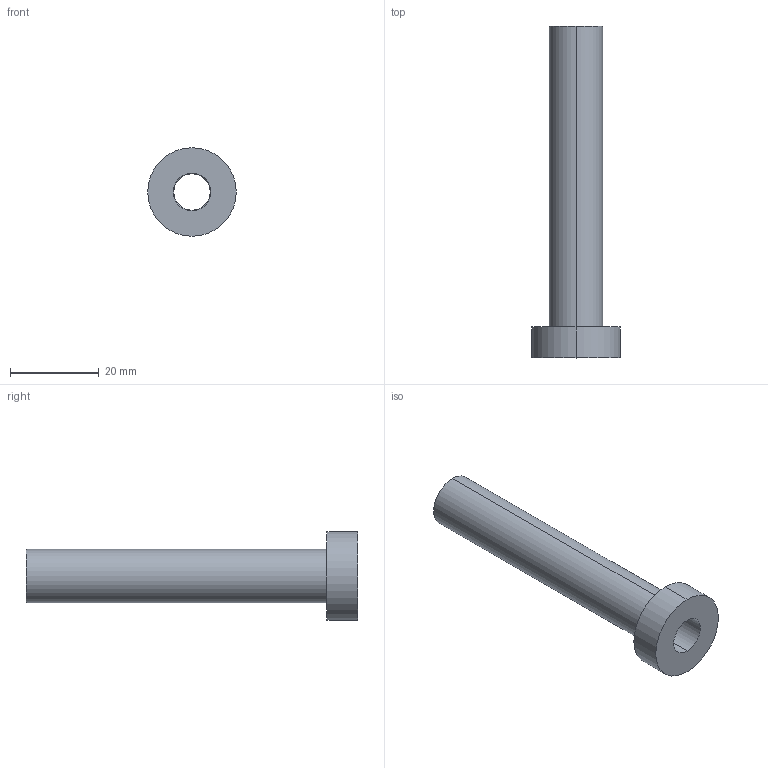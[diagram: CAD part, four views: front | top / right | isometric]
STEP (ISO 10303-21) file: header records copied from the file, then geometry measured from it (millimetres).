
FILE_DESCRIPTION (( 'STEP AP214' ), '1' );
FILE_NAME ('ET-ETN-8,2x75.STEP', '2019-12-16T17:05:57', ( 'August' ), ( '' ), 'SwSTEP 2.0', 'SolidWorks 2018', '' );
FILE_SCHEMA (( 'AUTOMOTIVE_DESIGN' ));
Length unit declared in the file: millimetre
Products named in the file (1): ET-ETN-8,2x75
Bounding box: 20 x 75 x 20 mm (x, y, z)
Volume: 5811.2 mm3; surface area: 5484 mm2
Topology: 1 solids, 1 shells, 13 faces, 26 edges, 16 vertices
Faces by surface type: cylinder 8, plane 3, cone 2
Entity records: 382 total; most frequent: DIRECTION 70, CARTESIAN_POINT 56, ORIENTED_EDGE 52, AXIS2_PLACEMENT_3D 30, EDGE_CURVE 26, CIRCLE 16, EDGE_LOOP 16, VERTEX_POINT 16
